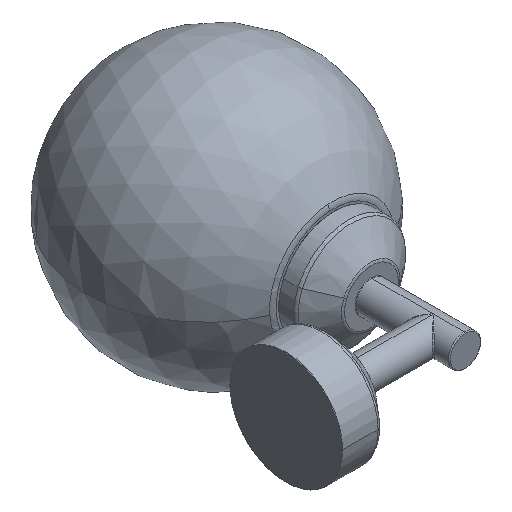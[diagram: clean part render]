
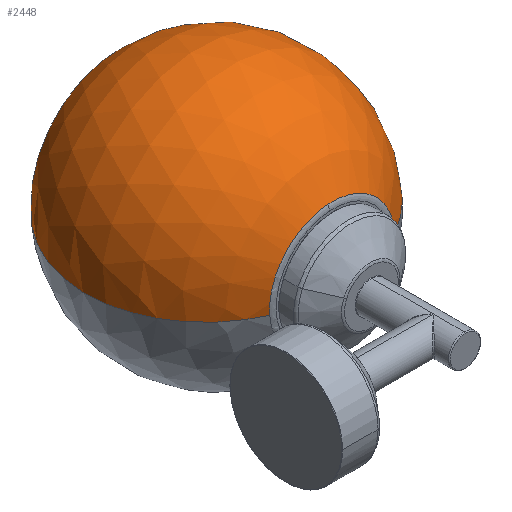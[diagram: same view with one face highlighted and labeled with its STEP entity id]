
A CAD part, isometric view. The second image highlights one B-rep face of the part: STEP entity #2448.
In plain terms, the highlighted spherical face has radius 70 mm.
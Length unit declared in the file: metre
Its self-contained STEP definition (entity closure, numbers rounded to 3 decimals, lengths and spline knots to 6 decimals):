
#2334=VERTEX_POINT('',#2335);
#2335=CARTESIAN_POINT('',(0.046122,0.053832,
  0.03329));
#2341=CARTESIAN_POINT('',(0.01521,0.053832,
  -0.002378));
#2343=EDGE_CURVE('',#2344,#2334,#2346,.T.);
#2344=VERTEX_POINT('',#2345);
#2345=CARTESIAN_POINT('',(0.01521,0.053832,
  -0.002378));
#2346=(B_SPLINE_CURVE(3,(#2341,#2347,#2348,#2349),.UNSPECIFIED.,.F.,.U.)B_SPLINE_CURVE_WITH_KNOTS(
  (4,4),(0.0,1.0),.UNSPECIFIED.)BOUNDED_CURVE()CURVE()GEOMETRIC_REPRESENTATION_ITEM(
  )RATIONAL_B_SPLINE_CURVE((1.0,0.805,0.805,1.0)
  )REPRESENTATION_ITEM(''));
#2347=CARTESIAN_POINT('',(0.013817,0.053832,
  0.017122));
#2348=CARTESIAN_POINT('',(0.026621,0.053832,
  0.031896));
#2349=CARTESIAN_POINT('',(0.046122,0.053832,
  0.03329));
#2354=CIRCLE('',#2355,0.033374);
#2355=AXIS2_PLACEMENT_3D('',#2356,#2357,#2358);
#2356=CARTESIAN_POINT('',(0.0485,0.053832,0.0));
#2357=DIRECTION('',(0.0,1.0,0.0));
#2358=DIRECTION('',(-0.071,0.0,0.997));
#2448=ADVANCED_FACE('',(#2454),#2449,.T.);
#2449=SPHERICAL_SURFACE('',#2450,0.07);
#2450=AXIS2_PLACEMENT_3D('',#2451,#2452,#2453);
#2451=CARTESIAN_POINT('',(0.0485,0.115364,0.0));
#2452=DIRECTION('',(0.0,1.0,0.0));
#2453=DIRECTION('',(0.997,0.0,0.071));
#2454=FACE_OUTER_BOUND('',#2455,.T.);
#2455=EDGE_LOOP('',(#2456,#2457,#2462,#2470));
#2456=ORIENTED_EDGE('',*,*,#2343,.T.);
#2457=ORIENTED_EDGE('',*,*,#2458,.T.);
#2458=EDGE_CURVE('',#2334,#2459,#2354,.T.);
#2459=VERTEX_POINT('',#2460);
#2460=CARTESIAN_POINT('',(0.08179,0.053832,
  0.002378));
#2461=CARTESIAN_POINT('',(0.08179,0.053832,
  0.002378));
#2462=ORIENTED_EDGE('',*,*,#2463,.T.);
#2463=EDGE_CURVE('',#2459,#2464,#2466,.T.);
#2464=VERTEX_POINT('',#2465);
#2465=CARTESIAN_POINT('',(0.0485,0.185364,0.0));
#2466=(B_SPLINE_CURVE(3,(#2461,#2467,#2468,#2469),.UNSPECIFIED.,.F.,.U.)B_SPLINE_CURVE_WITH_KNOTS(
  (4,4),(0.0,1.0),.UNSPECIFIED.)BOUNDED_CURVE()CURVE()GEOMETRIC_REPRESENTATION_ITEM(
  )RATIONAL_B_SPLINE_CURVE((1.0,0.497,0.497,1.0)
  )REPRESENTATION_ITEM(''));
#2467=CARTESIAN_POINT('',(0.161541,0.097199,
  0.008077));
#2468=CARTESIAN_POINT('',(0.139227,0.185364,
  0.006482));
#2469=CARTESIAN_POINT('',(0.0485,0.185364,0.0));
#2470=ORIENTED_EDGE('',*,*,#2472,.F.);
#2471=CARTESIAN_POINT('',(0.01521,0.053832,
  -0.002378));
#2472=EDGE_CURVE('',#2344,#2464,#2473,.T.);
#2473=(B_SPLINE_CURVE(3,(#2471,#2474,#2475,#2476),.UNSPECIFIED.,.F.,.U.)B_SPLINE_CURVE_WITH_KNOTS(
  (4,4),(0.0,1.0),.UNSPECIFIED.)BOUNDED_CURVE()CURVE()GEOMETRIC_REPRESENTATION_ITEM(
  )RATIONAL_B_SPLINE_CURVE((1.0,0.497,0.497,1.0)
  )REPRESENTATION_ITEM(''));
#2474=CARTESIAN_POINT('',(-0.064541,0.097199,
  -0.008077));
#2475=CARTESIAN_POINT('',(-0.042227,0.185364,
  -0.006482));
#2476=CARTESIAN_POINT('',(0.0485,0.185364,0.0));
